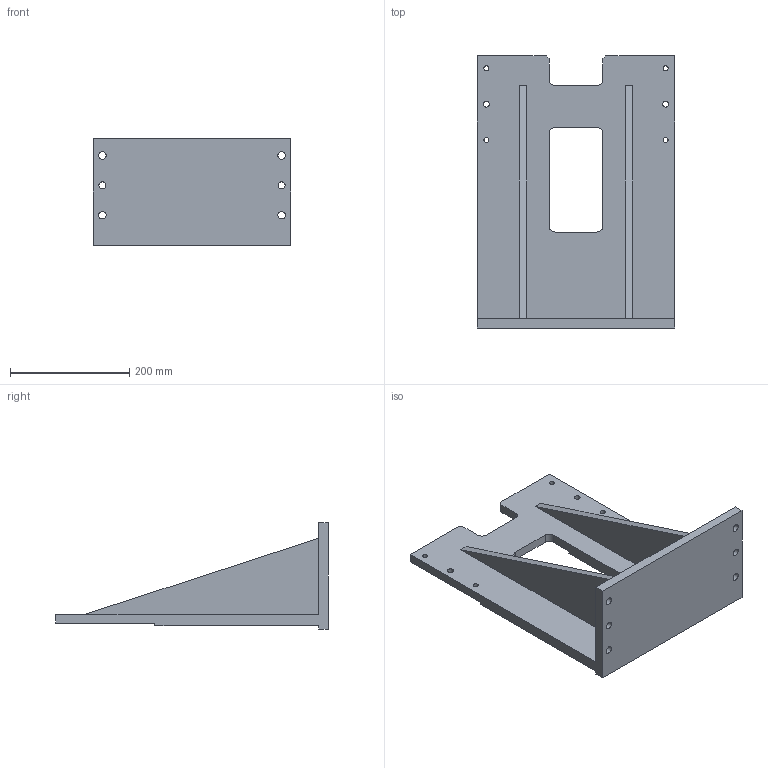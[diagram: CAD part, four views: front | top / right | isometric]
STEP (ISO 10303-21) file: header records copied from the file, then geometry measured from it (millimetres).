
FILE_DESCRIPTION(/* description */ ('DB4-RISER'),/* implementation_level */ '2;1');
FILE_NAME(/* name */ 'C:\Vault Workspace\CAD\Welker\Shot Pin\DBL40\S01896 DB4 Mounting Accessories\S01896E02\S01896E02-375.stp',/* time_stamp */ '2016-05-04T13:50:53-04:00',/* author */ ('klabrecque'),/* organization */ (''),/* preprocessor_version */ 'ST-DEVELOPER v15.2',/* originating_system */ 'Autodesk Inventor 2014',/* authorisation */ '');
FILE_SCHEMA (('AUTOMOTIVE_DESIGN { 1 0 10303 214 3 1 1 }'));
Length unit declared in the file: millimetre
Products named in the file (1): S01896E02-375
Bounding box: 330 x 456 x 177.8 mm (x, y, z)
Volume: 3748131.5 mm3; surface area: 509551 mm2
Topology: 1 solids, 1 shells, 47 faces, 150 edges, 104 vertices
Faces by surface type: plane 29, cylinder 18
Full cylindrical faces by diameter (mm): 8.376 x4, 10 x2, 12 x2, 12.5 x4
Entity records: 1628 total; most frequent: CARTESIAN_POINT 266, DIRECTION 258, ORIENTED_EDGE 252, EDGE_CURVE 126, VERTEX_POINT 92, LINE 90, VECTOR 90, EDGE_LOOP 84
